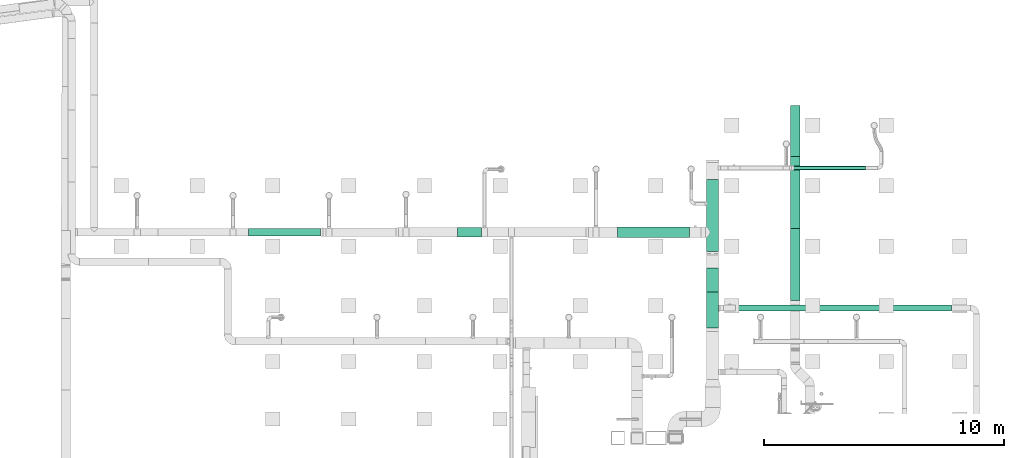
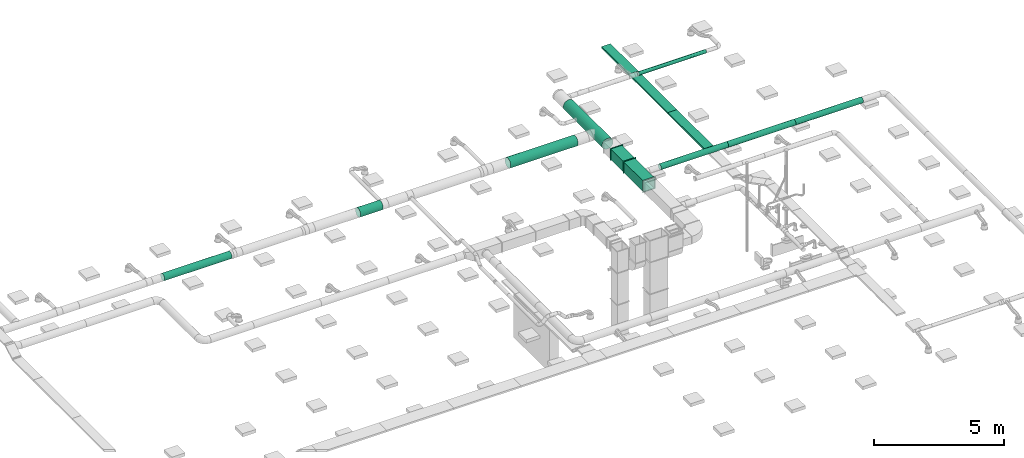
# One storey, part 6 of 119: 10 flow segments, 3 distribution elements.
"""IFC2X3 building model written with IfcOpenShell, lengths in metres."""

from ifc_helpers import new_model, si_unit, direction, frame, frame_2d, origin, place, context, subcontext, project, spatial, rectangle, extrude, open_shell, surface_model, source, transform, mapped, element, save


model = new_model("IFC2X3")

# Units and contexts
model_context = context("Model", 3, precision=1e-05, world=origin(), true_north=direction((-0.4480736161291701, 0.8939966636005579)))
body_context = subcontext(model_context, "Body", "Model", "MODEL_VIEW")
ifc_project = project(units=[si_unit("LENGTHUNIT", "METRE"), si_unit("AREAUNIT", "SQUARE_METRE"), si_unit("VOLUMEUNIT", "CUBIC_METRE"), si_unit("PLANEANGLEUNIT", "RADIAN"), si_unit("THERMODYNAMICTEMPERATUREUNIT", "KELVIN"), si_unit("MASSUNIT", "GRAM", prefix="KILO"), si_unit("TIMEUNIT", "SECOND")], contexts=[model_context])

# Site, building, storey
site_placement = place(None, origin())
site = spatial("IfcSite", under=ifc_project, at=site_placement, Name="Site 1", CompositionType="ELEMENT")
building_placement = place(site_placement, origin())
building = spatial("IfcBuilding", under=site, at=building_placement, Name="Undefined", CompositionType="ELEMENT")
storey_placement = place(building_placement, frame((0.0, 0.0, 5.4)))
storey = spatial("IfcBuildingStorey", under=building, at=storey_placement, Name="R+1", CompositionType="ELEMENT", Elevation=5.4)

# Flow segments
shared_shape_1 = source(origin(), body_context, "Body", "SurfaceModel", [
    surface_model("IfcFaceBasedSurfaceModel", [(0.0, 0.0, 0.0), (0.5800000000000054, 0.0, 0.0), (0.5400000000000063, 0.040000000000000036, 0.0), (0.04000000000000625, 0.040000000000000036, 0.0), (0.5800000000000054, 0.5800000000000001, 0.0), (0.5400000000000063, 0.54, 0.0), (0.0, 0.5800000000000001, 0.0), (0.04000000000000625, 0.54, 0.0), (0.0, 0.0, -1.4939999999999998), (0.5800000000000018, 0.0, -1.4939999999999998), (0.5399999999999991, 0.040000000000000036, -1.4939999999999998), (0.03999999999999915, 0.040000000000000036, -1.4939999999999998), (0.5800000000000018, 0.5800000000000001, -1.4939999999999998), (0.5399999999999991, 0.54, -1.4939999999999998), (0.0, 0.5800000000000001, -1.4939999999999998), (0.03999999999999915, 0.54, -1.4939999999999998), (0.04000000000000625, 0.54, 0.0030000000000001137), (0.03999999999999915, 0.54, -1.4969999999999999), (0.03999999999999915, 0.040000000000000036, -1.4969999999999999), (0.04000000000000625, 0.040000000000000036, 0.0030000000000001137), (0.5399999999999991, 0.040000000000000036, -1.4969999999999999), (0.5400000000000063, 0.040000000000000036, 0.0030000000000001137), (0.5399999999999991, 0.54, -1.4969999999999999), (0.5400000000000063, 0.54, 0.0030000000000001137)], [open_shell([[[0, 1, 2, 3]], [[1, 4, 5, 2]], [[6, 4, 5, 7]], [[0, 6, 7, 3]], [[8, 9, 10, 11]], [[9, 12, 13, 10]], [[14, 12, 13, 15]], [[8, 14, 15, 11]], [[16, 17, 18, 19]], [[19, 18, 20, 21]], [[21, 20, 22, 23]], [[23, 22, 17, 16]]])]),
])
flow_segment_1_placement = place(storey_placement, origin())
element("IfcFlowSegment", 1, at=flow_segment_1_placement, inside=storey, Name="Gaine de ventilation", ObjectType="Gaine de ventilation", context=body_context, shape_type="MappedRepresentation", body=[
    mapped(shared_shape_1, transform((54.58271088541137, 16.517616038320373, 3.04), x_axis=(-1.0, 0.0, 0.0), y_axis=(0.0, 0.0, -1.0), z_axis=(0.0, -1.0, 0.0))),
])
shared_shape_2 = source(origin(), body_context, "Body", "SurfaceModel", [
    surface_model("IfcFaceBasedSurfaceModel", [(0.0, 0.0, 0.0), (0.5800000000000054, 0.0, 0.0), (0.5400000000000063, 0.040000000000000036, 0.0), (0.04000000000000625, 0.040000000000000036, 0.0), (0.5800000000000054, 0.5800000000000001, 0.0), (0.5400000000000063, 0.54, 0.0), (0.0, 0.5800000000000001, 0.0), (0.04000000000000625, 0.54, 0.0), (0.0, 0.0, -0.9939999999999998), (0.5800000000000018, 0.0, -0.9939999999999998), (0.5399999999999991, 0.040000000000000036, -0.9939999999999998), (0.03999999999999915, 0.040000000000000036, -0.9939999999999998), (0.5800000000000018, 0.5800000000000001, -0.9939999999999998), (0.5399999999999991, 0.54, -0.9939999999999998), (0.0, 0.5800000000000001, -0.9939999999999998), (0.03999999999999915, 0.54, -0.9939999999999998), (0.04000000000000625, 0.54, 0.0030000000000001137), (0.03999999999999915, 0.54, -0.9969999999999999), (0.03999999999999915, 0.040000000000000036, -0.9969999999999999), (0.04000000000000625, 0.040000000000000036, 0.0030000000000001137), (0.5399999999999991, 0.040000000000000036, -0.9969999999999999), (0.5400000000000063, 0.040000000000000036, 0.0030000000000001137), (0.5399999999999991, 0.54, -0.9969999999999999), (0.5400000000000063, 0.54, 0.0030000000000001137)], [open_shell([[[0, 1, 2, 3]], [[1, 4, 5, 2]], [[6, 4, 5, 7]], [[0, 6, 7, 3]], [[8, 9, 10, 11]], [[9, 12, 13, 10]], [[14, 12, 13, 15]], [[8, 14, 15, 11]], [[16, 17, 18, 19]], [[19, 18, 20, 21]], [[21, 20, 22, 23]], [[23, 22, 17, 16]]])]),
])
flow_segment_2_placement = place(storey_placement, origin())
element("IfcFlowSegment", 2, at=flow_segment_2_placement, inside=storey, Name="Gaine de ventilation", ObjectType="Gaine de ventilation", context=body_context, shape_type="MappedRepresentation", body=[
    mapped(shared_shape_2, transform((54.58271088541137, 18.017616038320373, 3.04), x_axis=(-1.0, 0.0, 0.0), y_axis=(0.0, 0.0, -1.0), z_axis=(0.0, -1.0, 0.0))),
])
shared_shape_3 = source(origin(), body_context, "Body", "SurfaceModel", [
    surface_model("IfcFaceBasedSurfaceModel", [(0.0, 0.0652630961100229, -3.552713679e-15), (0.0, 0.0, 0.0), (3.0, 0.0, 0.0), (3.0, 0.0652630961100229, -4.4408921e-16), (0.0, -0.06303931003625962, -0.01689133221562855), (3.0, -0.06303931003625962, -0.016891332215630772), (0.0, -0.11955880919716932, -0.049522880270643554), (3.0, -0.11955880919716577, -0.049522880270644), (0.0, -0.1657067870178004, -0.09567085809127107), (3.0, -0.16570678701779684, -0.09567085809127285), (0.0, -0.1983383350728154, -0.15219035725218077), (3.0, -0.1983383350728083, -0.15219035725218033), (0.0, -0.2152296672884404, -0.2152296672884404), (3.0, -0.21522966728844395, -0.21522966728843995), (0.0, -0.2152296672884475, -0.28049276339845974), (3.0, -0.2152296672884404, -0.2804927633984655), (0.0, -0.1983383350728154, -0.3435320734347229), (3.0, -0.1983383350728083, -0.34353207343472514), (0.0, -0.1657067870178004, -0.4000515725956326), (3.0, -0.1657067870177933, -0.40005157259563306), (0.0, -0.11955880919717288, -0.44619955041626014), (3.0, -0.11955880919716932, -0.44619955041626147), (0.0, -0.06303931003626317, -0.47883109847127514), (3.0, -0.06303931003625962, -0.4788310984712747), (0.0, -7.105427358e-15, -0.49572243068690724), (3.0, -3.552713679e-15, -0.49572243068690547), (0.0, 0.0652630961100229, -0.4957224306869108), (3.0, 0.0652630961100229, -0.49572243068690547), (0.0, 0.12830240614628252, -0.47883109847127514), (3.0, 0.12830240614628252, -0.47883109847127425), (0.0, 0.18482190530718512, -0.4461995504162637), (3.0, 0.18482190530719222, -0.44619955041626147), (0.0, 0.2309698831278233, -0.4000515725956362), (3.0, 0.2309698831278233, -0.40005157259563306), (0.0, 0.26360143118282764, -0.34353207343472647), (3.0, 0.2636014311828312, -0.3435320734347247), (0.0, 0.2804927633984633, -0.2804927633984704), (3.0, 0.2804927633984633, -0.2804927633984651), (0.0, 0.28049276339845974, -0.2152296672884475), (3.0, 0.2804927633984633, -0.2152296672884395), (0.0, 0.2636014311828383, -0.15219035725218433), (3.0, 0.26360143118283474, -0.15219035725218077), (0.0, 0.2309698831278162, -0.09567085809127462), (3.0, 0.23096988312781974, -0.0956708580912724), (0.0, 0.18482190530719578, -0.049522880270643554), (3.0, 0.18482190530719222, -0.049522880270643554), (0.0, 0.12830240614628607, -0.016891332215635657), (3.0, 0.12830240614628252, -0.016891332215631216)], [open_shell([[[0, 1, 2, 3]], [[1, 4, 5, 2]], [[4, 6, 7, 5]], [[6, 8, 9, 7]], [[8, 10, 11, 9]], [[10, 12, 13, 11]], [[12, 14, 15, 13]], [[14, 16, 17, 15]], [[16, 18, 19, 17]], [[18, 20, 21, 19]], [[20, 22, 23, 21]], [[22, 24, 25, 23]], [[24, 26, 27, 25]], [[26, 28, 29, 27]], [[28, 30, 31, 29]], [[30, 32, 33, 31]], [[32, 34, 35, 33]], [[34, 36, 37, 35]], [[36, 38, 39, 37]], [[38, 40, 41, 39]], [[40, 42, 43, 41]], [[42, 44, 45, 43]], [[44, 46, 47, 45]], [[46, 0, 3, 47]]])]),
])
flow_segment_3_placement = place(storey_placement, origin())
element("IfcFlowSegment", 3, at=flow_segment_3_placement, inside=storey, Name="Tube", ObjectType="Tube", context=body_context, shape_type="MappedRepresentation", body=[
    mapped(shared_shape_3, transform((54.357415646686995, 19.692864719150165, 2.9914814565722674), x_axis=(0.0, 1.0, 0.0), y_axis=(-0.9914448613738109, 0.0, 0.1305261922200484), z_axis=(0.1305261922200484, 0.0, 0.9914448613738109))),
])
shared_shape_4 = source(origin(), body_context, "Body", "SurfaceModel", [
    surface_model("IfcFaceBasedSurfaceModel", [(0.0, 0.04111575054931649, 0.0), (0.0, 0.0, 0.0), (3.0, 0.0, 0.0), (3.0, 0.04111575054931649, 0.0), (0.0, -0.03971476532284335, -0.010641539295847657), (3.0, -0.03971476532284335, -0.010641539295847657), (0.0, -0.0753220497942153, -0.0311994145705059), (3.0, -0.0753220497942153, -0.0311994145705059), (0.0, -0.10439527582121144, -0.060272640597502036), (3.0, -0.10439527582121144, -0.060272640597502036), (0.0, -0.12495315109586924, -0.09587992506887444), (3.0, -0.12495315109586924, -0.09587992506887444), (0.0, -0.13559469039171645, -0.13559469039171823), (3.0, -0.13559469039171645, -0.13559469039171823), (0.0, -0.135594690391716, -0.17671044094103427), (3.0, -0.135594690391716, -0.17671044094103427), (0.0, -0.1249531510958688, -0.21642520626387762), (3.0, -0.1249531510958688, -0.21642520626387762), (0.0, -0.10439527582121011, -0.2520324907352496), (3.0, -0.10439527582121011, -0.2520324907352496), (0.0, -0.07532204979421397, -0.2811057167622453), (3.0, -0.07532204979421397, -0.2811057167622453), (0.0, -0.039714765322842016, -0.3016635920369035), (3.0, -0.039714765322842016, -0.3016635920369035), (0.0, 1.776356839e-15, -0.3123051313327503), (3.0, 1.776356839e-15, -0.3123051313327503), (0.0, 0.041115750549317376, -0.31230513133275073), (3.0, 0.041115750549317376, -0.31230513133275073), (0.0, 0.08083051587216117, -0.30166359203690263), (3.0, 0.08083051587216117, -0.30166359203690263), (0.0, 0.11643780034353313, -0.28110571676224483), (3.0, 0.11643780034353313, -0.28110571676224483), (0.0, 0.14551102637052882, -0.25203249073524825), (3.0, 0.14551102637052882, -0.25203249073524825), (0.0, 0.16606890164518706, -0.2164252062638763), (3.0, 0.16606890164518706, -0.2164252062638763), (0.0, 0.17671044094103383, -0.1767104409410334), (3.0, 0.17671044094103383, -0.1767104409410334), (0.0, 0.17671044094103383, -0.1355946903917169), (3.0, 0.17671044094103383, -0.1355946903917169), (0.0, 0.16606890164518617, -0.09587992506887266), (3.0, 0.16606890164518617, -0.09587992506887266), (0.0, 0.14551102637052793, -0.06027264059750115), (3.0, 0.14551102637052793, -0.06027264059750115), (0.0, 0.1164378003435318, -0.031199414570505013), (3.0, 0.1164378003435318, -0.031199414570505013), (0.0, 0.08083051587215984, -0.010641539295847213), (3.0, 0.08083051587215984, -0.010641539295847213)], [open_shell([[[0, 1, 2, 3]], [[1, 4, 5, 2]], [[4, 6, 7, 5]], [[6, 8, 9, 7]], [[8, 10, 11, 9]], [[10, 12, 13, 11]], [[12, 14, 15, 13]], [[14, 16, 17, 15]], [[16, 18, 19, 17]], [[18, 20, 21, 19]], [[20, 22, 23, 21]], [[22, 24, 25, 23]], [[24, 26, 27, 25]], [[26, 28, 29, 27]], [[28, 30, 31, 29]], [[30, 32, 33, 31]], [[32, 34, 35, 33]], [[34, 36, 37, 35]], [[36, 38, 39, 37]], [[38, 40, 41, 39]], [[40, 42, 43, 41]], [[42, 44, 45, 43]], [[44, 46, 47, 45]], [[46, 0, 3, 47]]])]),
])
flow_segment_4_placement = place(storey_placement, origin())
element("IfcFlowSegment", 4, at=flow_segment_4_placement, inside=storey, Name="Tube", ObjectType="Tube", context=body_context, shape_type="MappedRepresentation", body=[
    mapped(shared_shape_4, transform((37.9432894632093, 20.54514033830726, 2.902133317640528), x_axis=(-1.0, 0.0, 0.0), y_axis=(7.266545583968e-12, -0.9914448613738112, 0.13052619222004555), z_axis=(0.0, 0.13052619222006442, 0.9914448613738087))),
])
shared_shape_5 = source(origin(), body_context, "Body", "SurfaceModel", [
    surface_model("IfcFaceBasedSurfaceModel", [(0.0, 0.020884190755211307, 0.0), (0.0, 0.0, 0.0), (3.0, 0.0, 0.0), (3.0, 0.020884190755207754, -4.4408921e-16), (0.0, -0.020172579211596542, -0.005405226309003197), (3.0, -0.020172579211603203, -0.005405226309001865), (0.0, -0.03825881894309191, -0.015847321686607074), (3.0, -0.03825881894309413, -0.015847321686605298), (0.0, -0.05302617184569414, -0.0306146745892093), (3.0, -0.053026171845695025, -0.030614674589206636), (0.0, -0.06346826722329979, -0.04870091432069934), (3.0, -0.06346826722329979, -0.04870091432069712), (0.0, -0.06887349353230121, -0.06887349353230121), (3.0, -0.0688734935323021, -0.06887349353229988), (0.0, -0.06887349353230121, -0.08975768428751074), (3.0, -0.0688734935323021, -0.08975768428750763), (0.0, -0.06346826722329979, -0.10993026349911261), (3.0, -0.06346826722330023, -0.10993026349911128), (0.0, -0.05302617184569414, -0.12801650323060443), (3.0, -0.0530261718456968, -0.12801650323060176), (0.0, -0.038258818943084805, -0.14278385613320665), (3.0, -0.03825881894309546, -0.1427838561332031), (0.0, -0.020172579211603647, -0.15322595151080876), (3.0, -0.020172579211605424, -0.15322595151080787), (0.0, 7.105427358e-15, -0.15863117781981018), (3.0, -2.664535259e-15, -0.15863117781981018), (0.0, 0.020884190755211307, -0.15863117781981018), (3.0, 0.020884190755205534, -0.15863117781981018), (0.0, 0.04105676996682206, -0.15322595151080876), (3.0, 0.04105676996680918, -0.1532259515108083), (0.0, 0.05914300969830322, -0.1427838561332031), (3.0, 0.059143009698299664, -0.14278385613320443), (0.0, 0.07391036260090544, -0.12801650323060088), (3.0, 0.073910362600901, -0.12801650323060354), (0.0, 0.0843524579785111, -0.10993026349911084), (3.0, 0.08435245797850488, -0.10993026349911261), (0.0, 0.08975768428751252, -0.08975768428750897), (3.0, 0.08975768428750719, -0.08975768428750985), (0.0, 0.08975768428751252, -0.06887349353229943), (3.0, 0.08975768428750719, -0.0688734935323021), (0.0, 0.0843524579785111, -0.048700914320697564), (3.0, 0.08435245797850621, -0.048700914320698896), (0.0, 0.07391036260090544, -0.030614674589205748), (3.0, 0.07391036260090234, -0.03061467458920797), (0.0, 0.05914300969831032, -0.015847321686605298), (3.0, 0.05914300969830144, -0.015847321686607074), (0.0, 0.04105676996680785, -0.005405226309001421), (3.0, 0.041056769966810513, -0.005405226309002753)], [open_shell([[[0, 1, 2, 3]], [[1, 4, 5, 2]], [[4, 6, 7, 5]], [[6, 8, 9, 7]], [[8, 10, 11, 9]], [[10, 12, 13, 11]], [[12, 14, 15, 13]], [[14, 16, 17, 15]], [[16, 18, 19, 17]], [[18, 20, 21, 19]], [[20, 22, 23, 21]], [[22, 24, 25, 23]], [[24, 26, 27, 25]], [[26, 28, 29, 27]], [[28, 30, 31, 29]], [[30, 32, 33, 31]], [[32, 34, 35, 33]], [[34, 36, 37, 35]], [[36, 38, 39, 37]], [[38, 40, 41, 39]], [[40, 42, 43, 41]], [[42, 44, 45, 43]], [[44, 46, 47, 45]], [[46, 0, 3, 47]]])]),
])
flow_segment_5_placement = place(storey_placement, origin())
element("IfcFlowSegment", 5, at=flow_segment_5_placement, inside=storey, Name="Tube", ObjectType="Tube", context=body_context, shape_type="MappedRepresentation", body=[
    mapped(shared_shape_5, transform((57.67100041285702, 23.164105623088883, 2.8272740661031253), x_axis=(1.0, 0.0, 0.0), y_axis=(0.0, 0.9914448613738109, 0.1305261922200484), z_axis=(0.0, -0.1305261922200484, 0.9914448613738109))),
])
shared_shape_6 = source(origin(), body_context, "Body", "SurfaceModel", [
    surface_model("IfcFaceBasedSurfaceModel", [(0.0, 0.05873678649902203, -2.77555756e-16), (0.0, 0.0, 0.0), (3.0, 0.0, 0.0), (3.0, 0.05873678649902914, 8.8817842e-16), (0.0, -0.05673537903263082, -0.015202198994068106), (3.0, -0.05673537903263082, -0.015202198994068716), (0.0, -0.10760292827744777, -0.044570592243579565), (3.0, -0.10760292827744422, -0.04457059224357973), (0.0, -0.14913610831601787, -0.08610377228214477), (3.0, -0.14913610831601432, -0.08610377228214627), (0.0, -0.1785045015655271, -0.13697132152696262), (3.0, -0.17850450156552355, -0.13697132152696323), (0.0, -0.19370670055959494, -0.1937067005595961), (3.0, -0.19370670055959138, -0.1937067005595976), (0.0, -0.19370670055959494, -0.252443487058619), (3.0, -0.19370670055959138, -0.25244348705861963), (0.0, -0.1785045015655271, -0.30917886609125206), (3.0, -0.1785045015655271, -0.309178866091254), (0.0, -0.14913610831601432, -0.36004641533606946), (3.0, -0.1491361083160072, -0.36004641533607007), (0.0, -0.10760292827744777, -0.40157959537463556), (3.0, -0.10760292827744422, -0.4015795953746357), (0.0, -0.05673537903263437, -0.43094798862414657), (3.0, -0.05673537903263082, -0.43094798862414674), (0.0, 0.0, -0.4461501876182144), (3.0, 1.0658141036e-14, -0.44615018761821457), (0.0, 0.058736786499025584, -0.4461501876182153), (3.0, 0.05873678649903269, -0.44615018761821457), (0.0, 0.1154721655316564, -0.430947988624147), (3.0, 0.1154721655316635, -0.43094798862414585), (0.0, 0.16633971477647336, -0.4015795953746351), (3.0, 0.16633971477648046, -0.40157959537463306), (0.0, 0.20787289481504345, -0.3600464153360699), (3.0, 0.207872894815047, -0.3600464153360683), (0.0, 0.23724128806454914, -0.3091788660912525), (3.0, 0.23724128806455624, -0.30917886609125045), (0.0, 0.25244348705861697, -0.25244348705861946), (3.0, 0.25244348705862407, -0.25244348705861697), (0.0, 0.25244348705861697, -0.1937067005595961), (3.0, 0.25244348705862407, -0.19370670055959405), (0.0, 0.2372412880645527, -0.13697132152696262), (3.0, 0.2372412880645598, -0.13697132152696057), (0.0, 0.2078728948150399, -0.08610377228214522), (3.0, 0.20787289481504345, -0.08610377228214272), (0.0, 0.16633971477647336, -0.044570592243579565), (3.0, 0.1663397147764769, -0.044570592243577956), (0.0, 0.11547216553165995, -0.01520219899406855), (3.0, 0.1154721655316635, -0.01520219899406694)], [open_shell([[[0, 1, 2, 3]], [[1, 4, 5, 2]], [[4, 6, 7, 5]], [[6, 8, 9, 7]], [[8, 10, 11, 9]], [[10, 12, 13, 11]], [[12, 14, 15, 13]], [[14, 16, 17, 15]], [[16, 18, 19, 17]], [[18, 20, 21, 19]], [[20, 22, 23, 21]], [[22, 24, 25, 23]], [[24, 26, 27, 25]], [[26, 28, 29, 27]], [[28, 30, 31, 29]], [[30, 32, 33, 31]], [[32, 34, 35, 33]], [[34, 36, 37, 35]], [[36, 38, 39, 37]], [[38, 40, 41, 39]], [[40, 42, 43, 41]], [[42, 44, 45, 43]], [[44, 46, 47, 45]], [[46, 0, 3, 47]]])]),
])
flow_segment_6_placement = place(storey_placement, origin())
element("IfcFlowSegment", 6, at=flow_segment_6_placement, inside=storey, Name="Tube", ObjectType="Tube", context=body_context, shape_type="MappedRepresentation", body=[
    mapped(shared_shape_6, transform((53.31537395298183, 20.562610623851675, 2.9673333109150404), x_axis=(-1.0, 0.0, 0.0), y_axis=(7.266545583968e-12, -0.9914448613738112, 0.13052619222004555), z_axis=(0.0, 0.13052619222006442, 0.9914448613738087))),
])
shared_shape_7 = source(origin(), body_context, "Body", "SurfaceModel", [
    surface_model("IfcFaceBasedSurfaceModel", [(0.0, 0.03263154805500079, 0.0), (0.0, 0.0, 0.0), (3.0, 0.0, 0.0), (3.0, 0.03263154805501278, -4.4408921e-16), (0.0, -0.031519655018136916, -0.008445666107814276), (3.0, -0.03151965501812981, -0.008445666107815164), (0.0, -0.05977940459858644, -0.024761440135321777), (3.0, -0.05977940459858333, -0.02476144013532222), (0.0, -0.08285339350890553, -0.047835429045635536), (3.0, -0.08285339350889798, -0.04783542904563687), (0.0, -0.09916916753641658, -0.07609517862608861), (3.0, -0.09916916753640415, -0.07609517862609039), (0.0, -0.1076148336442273, -0.10761483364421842), (3.0, -0.10761483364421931, -0.10761483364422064), (0.0, -0.1076148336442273, -0.14024638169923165), (3.0, -0.10761483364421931, -0.14024638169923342), (0.0, -0.09916916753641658, -0.17176603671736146), (3.0, -0.09916916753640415, -0.17176603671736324), (0.0, -0.08285339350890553, -0.2000257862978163), (3.0, -0.08285339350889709, -0.20002578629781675), (0.0, -0.059779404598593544, -0.22309977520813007), (3.0, -0.059779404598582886, -0.22309977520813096), (0.0, -0.03151965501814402, -0.23941554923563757), (3.0, -0.03151965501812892, -0.23941554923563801), (0.0, -1.4210854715e-14, -0.24786121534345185), (3.0, 8.8817842e-16, -0.24786121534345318), (0.0, 0.03263154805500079, -0.24786121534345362), (3.0, 0.032631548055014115, -0.24786121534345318), (0.0, 0.0641512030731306, -0.23941554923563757), (3.0, 0.06415120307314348, -0.23941554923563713), (0.0, 0.09241095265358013, -0.22309977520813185), (3.0, 0.092410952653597, -0.22309977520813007), (0.0, 0.11548494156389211, -0.2000257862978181), (3.0, 0.11548494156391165, -0.20002578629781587), (0.0, 0.13180071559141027, -0.171766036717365), (3.0, 0.13180071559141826, -0.1717660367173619), (0.0, 0.140246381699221, -0.1402463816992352), (3.0, 0.14024638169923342, -0.14024638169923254), (0.0, 0.140246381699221, -0.10761483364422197), (3.0, 0.14024638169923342, -0.10761483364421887), (0.0, 0.13180071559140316, -0.07609517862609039), (3.0, 0.13180071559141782, -0.07609517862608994), (0.0, 0.11548494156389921, -0.04783542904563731), (3.0, 0.11548494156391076, -0.047835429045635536), (0.0, 0.09241095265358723, -0.024761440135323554), (3.0, 0.09241095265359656, -0.024761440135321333), (0.0, 0.06415120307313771, -0.008445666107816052), (3.0, 0.06415120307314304, -0.008445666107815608)], [open_shell([[[0, 1, 2, 3]], [[1, 4, 5, 2]], [[4, 6, 7, 5]], [[6, 8, 9, 7]], [[8, 10, 11, 9]], [[10, 12, 13, 11]], [[12, 14, 15, 13]], [[14, 16, 17, 15]], [[16, 18, 19, 17]], [[18, 20, 21, 19]], [[20, 22, 23, 21]], [[22, 24, 25, 23]], [[24, 26, 27, 25]], [[26, 28, 29, 27]], [[28, 30, 31, 29]], [[30, 32, 33, 31]], [[32, 34, 35, 33]], [[34, 36, 37, 35]], [[36, 38, 39, 37]], [[38, 40, 41, 39]], [[40, 42, 43, 41]], [[42, 44, 45, 43]], [[44, 46, 47, 45]], [[46, 0, 3, 47]]])]),
])
flow_segment_7_placement = place(storey_placement, origin())
element("IfcFlowSegment", 7, at=flow_segment_7_placement, inside=storey, Name="Tube", ObjectType="Tube", context=body_context, shape_type="MappedRepresentation", body=[
    mapped(shared_shape_7, transform((55.25201245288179, 17.30693094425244, 2.8707407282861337), x_axis=(1.0, 0.0, 0.0), y_axis=(0.0, 0.9914448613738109, 0.1305261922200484), z_axis=(0.0, -0.1305261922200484, 0.9914448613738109))),
])
flow_segment_8_placement = place(storey_placement, origin())
element("IfcFlowSegment", 8, at=flow_segment_8_placement, inside=storey, Name="Tube", ObjectType="Tube", context=body_context, shape_type="MappedRepresentation", body=[
    mapped(shared_shape_7, transform((58.25201245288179, 17.30693094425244, 2.8707407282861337), x_axis=(1.0, 0.0, 0.0), y_axis=(0.0, 0.9914448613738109, 0.1305261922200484), z_axis=(0.0, -0.1305261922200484, 0.9914448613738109))),
])
flow_segment_9_placement = place(storey_placement, origin())
element("IfcFlowSegment", 9, at=flow_segment_9_placement, inside=storey, Name="Tube", ObjectType="Tube", context=body_context, shape_type="MappedRepresentation", body=[
    mapped(shared_shape_7, transform((61.25201245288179, 17.30693094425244, 2.8707407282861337), x_axis=(1.0, 0.0, 0.0), y_axis=(0.0, 0.9914448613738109, 0.1305261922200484), z_axis=(0.0, -0.1305261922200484, 0.9914448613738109))),
])
shared_shape_8 = source(origin(), body_context, "Body", "SurfaceModel", [
    surface_model("IfcFaceBasedSurfaceModel", [(0.0, 0.05221047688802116, -8.8817842e-16), (0.0, 0.0, 0.0), (1.0, 0.0, 0.0), (1.0, 0.05221047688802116, 0.0), (0.0, -0.05043144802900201, -0.013513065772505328), (1.0, -0.05043144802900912, -0.013513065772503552), (0.0, -0.09564704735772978, -0.0396183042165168), (1.0, -0.09564704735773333, -0.03961830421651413), (0.0, -0.1325654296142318, -0.07653668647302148), (1.0, -0.1325654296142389, -0.07653668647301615), (0.0, -0.15867066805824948, -0.12175228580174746), (1.0, -0.15867066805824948, -0.12175228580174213), (0.0, -0.17218373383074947, -0.17218373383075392), (1.0, -0.17218373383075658, -0.17218373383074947), (0.0, -0.17218373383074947, -0.22439421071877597), (1.0, -0.17218373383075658, -0.22439421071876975), (0.0, -0.15867066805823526, -0.2748256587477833), (1.0, -0.15867066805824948, -0.274825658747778), (0.0, -0.1325654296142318, -0.3200412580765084), (1.0, -0.1325654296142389, -0.32004125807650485), (0.0, -0.09564704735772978, -0.35695964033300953), (1.0, -0.09564704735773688, -0.35695964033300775), (0.0, -0.050431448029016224, -0.3830648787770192), (1.0, -0.05043144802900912, -0.38306487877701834), (0.0, 0.0, -0.39657794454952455), (1.0, -3.552713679e-15, -0.39657794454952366), (0.0, 0.05221047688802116, -0.3965779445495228), (1.0, 0.05221047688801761, -0.39657794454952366), (0.0, 0.10264192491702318, -0.38306487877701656), (1.0, 0.10264192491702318, -0.3830648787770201), (0.0, 0.14785752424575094, -0.356959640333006), (1.0, 0.14785752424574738, -0.35695964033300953), (0.0, 0.18477590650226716, -0.32004125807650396), (1.0, 0.1847759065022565, -0.3200412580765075), (0.0, 0.21088114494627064, -0.2748256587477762), (1.0, 0.21088114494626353, -0.27482565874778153), (0.0, 0.22439421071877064, -0.22439421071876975), (1.0, 0.22439421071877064, -0.2243942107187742), (0.0, 0.22439421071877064, -0.1721837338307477), (1.0, 0.22439421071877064, -0.17218373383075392), (0.0, 0.21088114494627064, -0.12175228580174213), (1.0, 0.21088114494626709, -0.12175228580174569), (0.0, 0.18477590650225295, -0.07653668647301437), (1.0, 0.1847759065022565, -0.07653668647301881), (0.0, 0.14785752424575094, -0.03961830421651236), (1.0, 0.14785752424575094, -0.03961830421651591), (0.0, 0.10264192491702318, -0.013513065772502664), (1.0, 0.10264192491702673, -0.013513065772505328)], [open_shell([[[0, 1, 2, 3]], [[1, 4, 5, 2]], [[4, 6, 7, 5]], [[6, 8, 9, 7]], [[8, 10, 11, 9]], [[10, 12, 13, 11]], [[12, 14, 15, 13]], [[14, 16, 17, 15]], [[16, 18, 19, 17]], [[18, 20, 21, 19]], [[20, 22, 23, 21]], [[22, 24, 25, 23]], [[24, 26, 27, 25]], [[26, 28, 29, 27]], [[28, 30, 31, 29]], [[30, 32, 33, 31]], [[32, 34, 35, 33]], [[34, 36, 37, 35]], [[36, 38, 39, 37]], [[38, 40, 41, 39]], [[40, 42, 43, 41]], [[42, 44, 45, 43]], [[44, 46, 47, 45]], [[46, 0, 3, 47]]])]),
])
flow_segment_10_placement = place(storey_placement, origin())
element("IfcFlowSegment", 10, at=flow_segment_10_placement, inside=storey, Name="Tube", ObjectType="Tube", context=body_context, shape_type="MappedRepresentation", body=[
    mapped(shared_shape_8, transform((44.64575225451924, 20.55614014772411, 2.9431851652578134), x_axis=(-1.0, 0.0, 0.0), y_axis=(7.266545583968e-12, -0.9914448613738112, 0.13052619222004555), z_axis=(0.0, 0.13052619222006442, 0.9914448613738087))),
])

# Distribution elements
distribution_element_1_placement = place(storey_placement, origin())
element("IfcDistributionElement", 11, at=distribution_element_1_placement, inside=storey, Name="Chemin(s) de câbles", ObjectType="Chemin(s) de câbles", context=body_context, shape_type="SweptSolid", body=[
    extrude(rectangle(XDim=0.4, YDim=0.08, at=frame_2d((3.552713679e-15, 0.0), x_axis=(-1.0, 0.0))), frame((57.735999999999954, 25.77804039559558, 2.455), z_axis=(0.0, -1.0, 0.0), x_axis=(1.0, 0.0, 0.0)), (0.0, 0.0, 1.0), 2.1249960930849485),
])
distribution_element_2_placement = place(storey_placement, origin())
element("IfcDistributionElement", 12, at=distribution_element_2_placement, inside=storey, Name="Chemin(s) de câbles", ObjectType="Chemin(s) de câbles", context=body_context, shape_type="SweptSolid", body=[
    extrude(rectangle(XDim=0.4, YDim=0.08, at=frame_2d((3.552713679e-15, 0.0), x_axis=(-1.0, 0.0))), frame((57.735999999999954, 23.65304430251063, 2.455), z_axis=(0.0, -1.0, 0.0), x_axis=(1.0, 0.0, 0.0)), (0.0, 0.0, 1.0), 3.0),
])
distribution_element_3_placement = place(storey_placement, origin())
element("IfcDistributionElement", 13, at=distribution_element_3_placement, inside=storey, Name="Chemin(s) de câbles", ObjectType="Chemin(s) de câbles", context=body_context, shape_type="SweptSolid", body=[
    extrude(rectangle(XDim=0.4, YDim=0.08, at=frame_2d((3.552713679e-15, 0.0), x_axis=(-1.0, 0.0))), frame((57.735999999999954, 20.65304430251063, 2.4550000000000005), z_axis=(0.0, -1.0, 0.0), x_axis=(1.0, 0.0, 0.0)), (0.0, 0.0, 1.0), 3.0),
])

save(model, "model.ifc")
